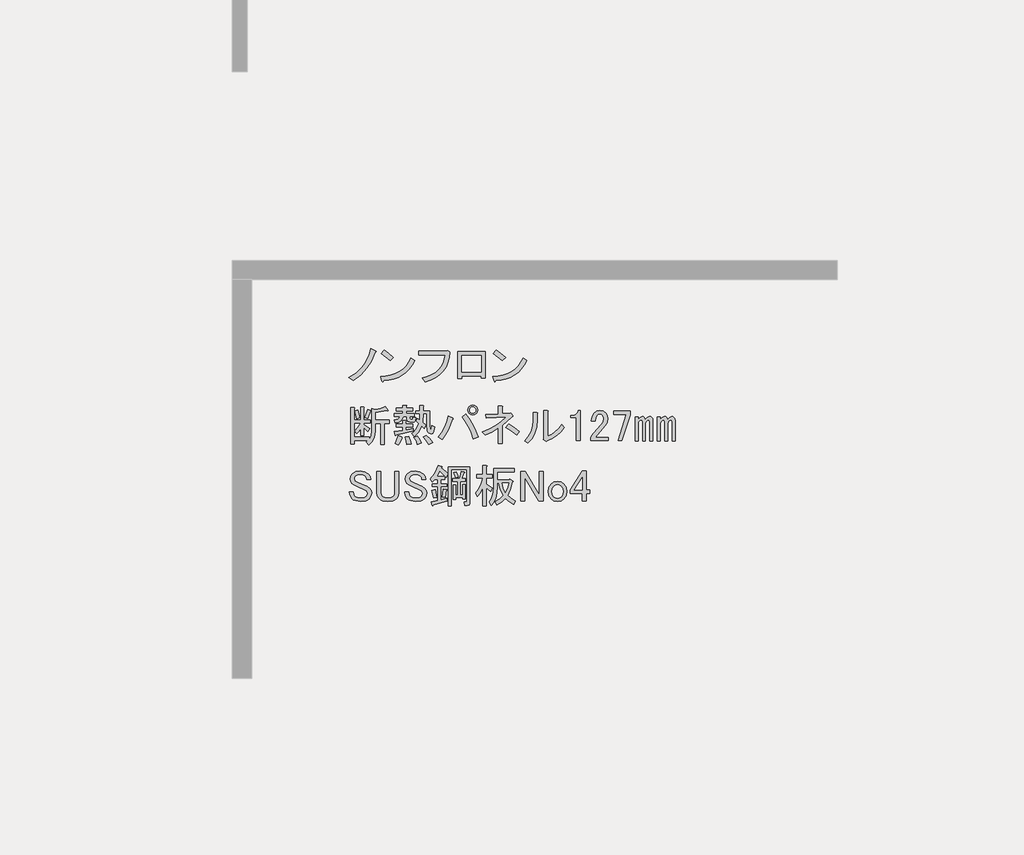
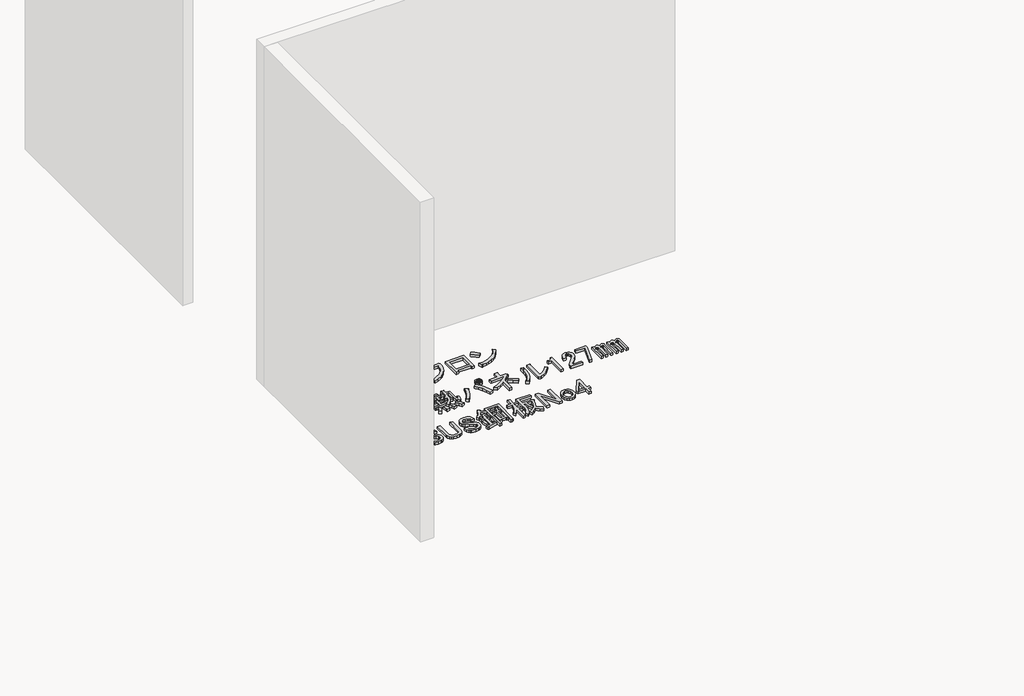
# One storey, part 45 of 117: 1 proxy.
"""IFC4 building model written with IfcOpenShell, lengths in millimetres."""

import ifcopenshell
import ifcopenshell.guid

model = None  # the IFC model being written
_history = None  # IfcOwnerHistory: only IFC2X3 demands one
_inside = {}  # id of a spatial element -> (the spatial element, [elements in it])
_under = {}  # id of a project, library or spatial element -> (it, [spatial elements below it])
_declared = {}  # id of a project -> (the project, [libraries it declares])
_typed = {}  # id of a type object -> (the type object, [elements of that type])
_made_of = {}  # id of a material, layer set ... -> (it, [elements and type objects made of it])


def new_model(schema):
    """Start an empty IFC model of exactly this schema.

    Asked for "IFC4X3", IfcOpenShell would pick the latest addendum, in which some entities
    have other attributes; the version numbers below select the first issue.
    IFC2X3 requires an IfcOwnerHistory on every rooted entity: one is made here for all.
    """
    global model, _history
    if schema == "IFC4X3":
        model = ifcopenshell.file(schema_version=(4, 3, 0, 0))
    else:
        model = ifcopenshell.file(schema=schema)
    _inside.clear()
    _under.clear()
    _declared.clear()
    _typed.clear()
    _made_of.clear()
    _history = None
    if model.schema == "IFC2X3":
        org = make("IfcOrganization", Name="unknown")
        user = make(
            "IfcPersonAndOrganization",
            ThePerson=make("IfcPerson", FamilyName="unknown"),
            TheOrganization=org,
        )
        app = make(
            "IfcApplication",
            ApplicationDeveloper=org,
            Version="unknown",
            ApplicationFullName="unknown",
            ApplicationIdentifier="unknown",
        )
        _history = make(
            "IfcOwnerHistory",
            OwningUser=user,
            OwningApplication=app,
            ChangeAction="ADDED",
            CreationDate=0,
        )
    return model


def make(cls, **values):
    """One entity of the class cls with the attributes given. An attribute that is None is left unset."""
    return model.create_entity(
        cls, **{name: value for name, value in values.items() if value is not None}
    )


def rooted(cls, **values):
    """An entity with a GlobalId (a new one), such as an element, a storey or a relation."""
    return make(cls, GlobalId=ifcopenshell.guid.new(), OwnerHistory=_history, **values)


def si_unit(unit_type, name, prefix=None):
    """IfcSIUnit, for example si_unit("LENGTHUNIT", "METRE", prefix="MILLI")."""
    return make("IfcSIUnit", UnitType=unit_type, Prefix=prefix, Name=name)


def assignment(units):
    """IfcUnitAssignment: the units of a project."""
    return None if units is None else make("IfcUnitAssignment", Units=units)


def point(xyz):
    """IfcCartesianPoint."""
    return None if xyz is None else make("IfcCartesianPoint", Coordinates=xyz)


def direction(xyz):
    """IfcDirection."""
    return None if xyz is None else make("IfcDirection", DirectionRatios=xyz)


def frame(location, z_axis=None, x_axis=None):
    """IfcAxis2Placement3D, a coordinate frame: its origin and axes. An axis left out is left unset."""
    return make(
        "IfcAxis2Placement3D",
        Location=point(location),
        Axis=direction(z_axis),
        RefDirection=direction(x_axis),
    )


def origin():
    """The frame at (0, 0, 0) with its axes left unset."""
    return frame((0.0, 0.0, 0.0))


def place(relative_to, where):
    """IfcLocalPlacement: puts the frame where relative to a parent placement (None: the world)."""
    return make(
        "IfcLocalPlacement", PlacementRelTo=relative_to, RelativePlacement=where
    )


def context(
    kind, dimensions, precision=None, world=None, true_north=None, identifier=None
):
    """IfcGeometricRepresentationContext, for example the 3D "Model" context."""
    return make(
        "IfcGeometricRepresentationContext",
        ContextIdentifier=identifier,
        ContextType=kind,
        CoordinateSpaceDimension=dimensions,
        Precision=precision,
        WorldCoordinateSystem=world,
        TrueNorth=true_north,
    )


def project(units=None, contexts=None):
    """IfcProject with its units and contexts."""
    return rooted(
        "IfcProject",
        Name="project",
        RepresentationContexts=contexts,
        UnitsInContext=assignment(units),
    )


def spatial(cls, under=None, at=None, **own):
    """A site, building, storey or space (cls), placed at a placement, below another one or the project."""
    s = rooted(cls, ObjectPlacement=at, **own)
    if under is not None:
        _under.setdefault(under.id(), (under, []))[1].append(s)
    return s


def polyline(points):
    """IfcPolyline through the points."""
    return make("IfcPolyline", Points=[point(p) for p in points])


def outline(outer, holes=None, kind="AREA"):
    """IfcArbitraryClosedProfileDef: a profile drawn as a closed curve; with holes, ...WithVoids."""
    if holes is None:
        return make("IfcArbitraryClosedProfileDef", ProfileType=kind, OuterCurve=outer)
    return make(
        "IfcArbitraryProfileDefWithVoids",
        ProfileType=kind,
        OuterCurve=outer,
        InnerCurves=holes,
    )


def extrude(swept, where, along, depth):
    """IfcExtrudedAreaSolid: the profile swept, set in the frame where, extruded along a direction by depth."""
    return make(
        "IfcExtrudedAreaSolid",
        SweptArea=swept,
        Position=where,
        ExtrudedDirection=direction(along),
        Depth=depth,
    )


def shape(context_of_items, identifier, shape_type, items):
    """IfcShapeRepresentation: the items that make up one representation, for example the "Body"."""
    return make(
        "IfcShapeRepresentation",
        ContextOfItems=context_of_items,
        RepresentationIdentifier=identifier,
        RepresentationType=shape_type,
        Items=items,
    )


def made_of(thing, what):
    """Note that an element or type object is made of a material, layer set ...; save() writes the relation."""
    if what is not None:
        _made_of.setdefault(what.id(), (what, []))[1].append(thing)
    return thing


def element(
    cls,
    number,
    at=None,
    inside=None,
    cuts=None,
    type_object=None,
    material=None,
    context=None,
    identifier="Body",
    shape_type=None,
    held_by="IfcProductDefinitionShape",
    body=None,
    shapes=None,
    **own,
):
    """One element of the class cls, such as IfcWall. Its Tag is "e" and its number.

    at: its placement. inside: the storey or other place that contains it. cuts: it is an
    opening in that element (IfcRelVoidsElement). A single representation is given by context,
    identifier, shape_type and body (its items); several are given by shapes. held_by: the class
    of the entity that holds the representations. save() writes the other relations.
    """
    e = rooted(cls, Tag="e%d" % number, ObjectPlacement=at, **own)
    if body is not None:
        shapes = [shape(context, identifier, shape_type, body)]
    if shapes is not None:
        e.Representation = make(held_by, Representations=shapes)
    if inside is not None:
        _inside.setdefault(inside.id(), (inside, []))[1].append(e)
    if cuts is not None:
        rooted(
            "IfcRelVoidsElement", RelatingBuildingElement=cuts, RelatedOpeningElement=e
        )
    if type_object is not None:
        _typed.setdefault(type_object.id(), (type_object, []))[1].append(e)
    return made_of(e, material)


def aggregate(whole, parts):
    """IfcRelAggregates: a whole, such as a stair, and the parts it consists of."""
    return rooted("IfcRelAggregates", RelatingObject=whole, RelatedObjects=parts)


def save(model, path):
    """Write the relations noted so far, then the file.

    IfcRelAggregates (storeys below a building ...), IfcRelContainedInSpatialStructure (elements
    in a storey), IfcRelDefinesByType, IfcRelAssociatesMaterial and IfcRelDeclares: one each for
    every whole, place, type object, material and project.
    """
    for whole, parts in _under.values():
        aggregate(whole, parts)
    for where, things in _inside.values():
        rooted(
            "IfcRelContainedInSpatialStructure",
            RelatedElements=things,
            RelatingStructure=where,
        )
    for kind, things in _typed.values():
        rooted("IfcRelDefinesByType", RelatedObjects=things, RelatingType=kind)
    for what, things in _made_of.values():
        rooted("IfcRelAssociatesMaterial", RelatedObjects=things, RelatingMaterial=what)
    for by, libraries in _declared.values():
        rooted("IfcRelDeclares", RelatingContext=by, RelatedDefinitions=libraries)
    model.write(path)


model = new_model("IFC4")

# Units and contexts
model_context = context("Model", 3, world=origin())
ifc_project = project(units=[si_unit("LENGTHUNIT", "METRE", prefix="MILLI")], contexts=[model_context])

# Site, building, storey
site = spatial("IfcSite", under=ifc_project)
building = spatial("IfcBuilding", under=site)
storey = spatial("IfcBuildingStorey", under=building, Name="レベル 1", Elevation=500.0)

# Proxy
placement = place(None, origin())
element("IfcBuildingElementProxy", 1, Name="200㎜\u3000MS Pゴシック", ObjectType="200㎜\u3000MS Pゴシック", at=placement, inside=storey, context=model_context, shape_type="SweptSolid", body=[
    extrude(outline(polyline([(16943.6706985, -8607.0496882), (16918.0952502, -8666.8215225), (16889.646156, -8712.7998566), (16847.9782907, -8758.2034615), (16798.8389462, -8795.560858), (16771.2519457, -8773.7211493), (16818.9544673, -8743.2605029), (16858.6107805, -8704.7536481), (16875.9963381, -8680.8305462), (16891.3703435, -8652.7406577), (16904.7327969, -8620.4839827), (16916.0836981, -8584.0605212), (16947.1190736, -8597.8540214), (16950.2800841, -8602.4518548), (16943.6706985, -8607.0496882)])), frame((0.0, 0.0, 500.0), z_axis=(0.0, 0.0, 1.0), x_axis=(1.0, 0.0, 0.0)), (0.0, 0.0, 1.0), 25.0),
    extrude(outline(polyline([(17043.3977052, -8662.2236891), (16984.7753292, -8615.0958967), (17004.3161212, -8590.9572713), (17031.6157571, -8610.7854279), (17065.2374138, -8640.3839804), (17043.3977052, -8662.2236891)])), frame((0.0, 0.0, 500.0), z_axis=(0.0, 0.0, 1.0), x_axis=(1.0, 0.0, 0.0)), (0.0, 0.0, 1.0), 25.0),
    extrude(outline(polyline([(17205.4713328, -8662.2236891), (17188.947869, -8691.965924), (17169.8381239, -8717.9724192), (17148.1420975, -8740.2431748), (17123.8597898, -8758.7781907), (17096.9912008, -8773.577467), (17067.5363306, -8784.6410036), (17035.495179, -8791.9688006), (17000.8677461, -8795.560858), (16995.1204544, -8803.6070664), (16989.3731626, -8797.8597747), (16980.1774958, -8767.9738575), (17016.0082679, -8765.2977748), (17048.7857912, -8758.9937141), (17078.5100658, -8749.0616756), (17105.1810916, -8735.5016591), (17128.7988687, -8718.3136646), (17149.363397, -8697.4976923), (17166.8746766, -8673.053742), (17181.3327074, -8644.9818138), (17205.4713328, -8662.2236891)])), frame((0.0, 0.0, 500.0), z_axis=(0.0, 0.0, 1.0), x_axis=(1.0, 0.0, 0.0)), (0.0, 0.0, 1.0), 25.0),
    extrude(outline(polyline([(17256.2314136, -8777.1695243), (17290.014713, -8767.4889298), (17319.5234641, -8755.1142922), (17344.757667, -8740.0456116), (17365.7173217, -8722.282888), (17382.402428, -8701.8261214), (17394.8129862, -8678.6753118), (17402.9489961, -8652.8304591), (17406.8104577, -8624.2915635), (17234.3917049, -8624.2915635), (17234.3917049, -8599.0034798), (17409.1093744, -8599.0034798), (17425.2017914, -8595.5551047), (17437.8458332, -8607.0496882), (17434.325617, -8643.5449909), (17426.0638851, -8676.5919185), (17413.0606375, -8706.1904711), (17395.3158742, -8732.3406486), (17372.8295952, -8755.042451), (17345.6018005, -8774.2958784), (17313.6324901, -8790.1009308), (17276.921664, -8802.4576081), (17256.2314136, -8777.1695243)])), frame((0.0, 0.0, 500.0), z_axis=(0.0, 0.0, 1.0), x_axis=(1.0, 0.0, 0.0)), (0.0, 0.0, 1.0), 25.0),
    extrude(outline(polyline([(17670.955987, -8776.020066), (17644.5184449, -8776.020066), (17644.5184449, -8763.3760241), (17516.9285679, -8763.3760241), (17516.9285679, -8781.7673577), (17490.4910258, -8781.7673577), (17490.4910258, -8602.4518548), (17670.955987, -8602.4518548), (17670.955987, -8776.020066)]), holes=[polyline([(17516.9285679, -8627.7399386), (17516.9285679, -8738.0879404), (17644.5184449, -8738.0879404), (17644.5184449, -8627.7399386), (17516.9285679, -8627.7399386)])]), frame((0.0, 0.0, 500.0), z_axis=(0.0, 0.0, 1.0), x_axis=(1.0, 0.0, 0.0)), (0.0, 0.0, 1.0), 25.0),
    extrude(outline(polyline([(17947.0099049, -8662.2236891), (17930.4864411, -8691.965924), (17911.376696, -8717.9724192), (17889.6806696, -8740.2431748), (17865.3983619, -8758.7781907), (17838.5297729, -8773.577467), (17809.0749026, -8784.6410036), (17777.0337511, -8791.9688006), (17742.4063182, -8795.560858), (17736.6590264, -8803.6070664), (17730.9117347, -8797.8597747), (17721.7160679, -8767.9738575), (17757.5468399, -8765.2977748), (17790.3243633, -8758.9937141), (17820.0486378, -8749.0616756), (17846.7196637, -8735.5016591), (17870.3374407, -8718.3136646), (17890.9019691, -8697.4976923), (17908.4132486, -8673.053742), (17922.8712795, -8644.9818138), (17947.0099049, -8662.2236891)])), frame((0.0, 0.0, 500.0), z_axis=(0.0, 0.0, 1.0), x_axis=(1.0, 0.0, 0.0)), (0.0, 0.0, 1.0), 25.0),
    extrude(outline(polyline([(17784.9362772, -8662.2236891), (17726.3139013, -8615.0958967), (17745.8546933, -8590.9572713), (17773.1543291, -8610.7854279), (17806.7759859, -8640.3839804), (17784.9362772, -8662.2236891)])), frame((0.0, 0.0, 500.0), z_axis=(0.0, 0.0, 1.0), x_axis=(1.0, 0.0, 0.0)), (0.0, 0.0, 1.0), 25.0),
    extrude(outline(polyline([(16877.0021141, -9039.2345221), (16894.2439894, -8986.3594379), (16914.9342397, -8992.1067296), (16916.6584273, -8995.2677401), (16912.635323, -8997.8540214), (16895.3934477, -9046.1312722), (16877.0021141, -9039.2345221)])), frame((0.0, 0.0, 500.0), z_axis=(0.0, 0.0, 1.0), x_axis=(1.0, 0.0, 0.0)), (0.0, 0.0, 1.0), 25.0),
    extrude(outline(polyline([(17031.0295333, -8990.9572713), (17029.3053458, -8995.5551047), (17021.8338665, -8993.256188), (16944.8201569, -9005.9002299), (16944.8201569, -9055.326939), (17036.7768251, -9055.326939), (17036.7768251, -9077.1666477), (17005.7414495, -9077.1666477), (17005.7414495, -9217.4005666), (16982.7522825, -9217.4005666), (16982.7522825, -9077.1666477), (16944.8201569, -9077.1666477), (16944.8201569, -9126.5933568), (16942.2338756, -9154.3958807), (16934.4750317, -9179.1810764), (16921.5436253, -9200.948944), (16903.4396562, -9219.6994833), (16886.1977809, -9200.1586914), (16896.5429061, -9190.9630245), (16806.8851546, -9190.9630245), (16806.8851546, -9212.8027332), (16783.8959876, -9212.8027332), (16783.8959876, -8973.715396), (16805.7356963, -8973.715396), (16810.6208943, -8976.0143127), (16806.8851546, -8980.6121461), (16806.8851546, -9056.4763974), (16849.4151137, -9056.4763974), (16849.4151137, -8969.1175626), (16867.8064473, -8969.1175626), (16872.6916453, -8971.4164793), (16868.9559057, -8976.0143127), (16868.9559057, -9056.4763974), (16912.635323, -9056.4763974), (16912.635323, -9074.867731), (16868.9559057, -9074.867731), (16868.9559057, -9084.0633978), (16909.186948, -9110.5009399), (16895.3934477, -9132.3406486), (16868.9559057, -9105.9031065), (16868.9559057, -9158.7781907), (16849.4151137, -9158.7781907), (16849.4151137, -9110.5009399), (16836.1963426, -9130.3290965), (16821.8281132, -9146.1341488), (16809.1840713, -9127.7428152), (16831.02378, -9103.6041898), (16848.2656553, -9074.867731), (16806.8851546, -9074.867731), (16806.8851546, -9169.1233159), (16904.5891146, -9169.1233159), (16904.5891146, -9182.9168161), (16917.520521, -9158.7781907), (16921.8309898, -9125.4438985), (16921.8309898, -8980.6121461), (16943.6706985, -8986.3594379), (16979.8786366, -8978.8879586), (17010.339283, -8965.6691875), (17031.0295333, -8990.9572713)])), frame((0.0, 0.0, 500.0), z_axis=(0.0, 0.0, 1.0), x_axis=(1.0, 0.0, 0.0)), (0.0, 0.0, 1.0), 25.0),
    extrude(outline(polyline([(16822.9775716, -9047.2807305), (16810.3335297, -8996.7045631), (16829.8743217, -8989.8078129), (16837.6331656, -9013.9464383), (16842.5183636, -9040.3839804), (16822.9775716, -9047.2807305)])), frame((0.0, 0.0, 500.0), z_axis=(0.0, 0.0, 1.0), x_axis=(1.0, 0.0, 0.0)), (0.0, 0.0, 1.0), 25.0),
    extrude(outline(polyline([(17121.8367431, -9167.9738575), (17125.2851182, -9172.8590555), (17119.5378264, -9176.020066), (17109.7674304, -9201.5955143), (17098.8475761, -9220.8489417), (17075.858409, -9209.3543582), (17088.5024509, -9185.790462), (17098.8475761, -9158.7781907), (17121.8367431, -9167.9738575)])), frame((0.0, 0.0, 500.0), z_axis=(0.0, 0.0, 1.0), x_axis=(1.0, 0.0, 0.0)), (0.0, 0.0, 1.0), 25.0),
    extrude(outline(polyline([(17166.6656188, -9163.3760241), (17176.7233794, -9190.67566), (17181.6085774, -9212.8027332), (17152.8721186, -9218.550025), (17150.2858373, -9196.9976809), (17142.5269934, -9166.8243992), (17166.6656188, -9163.3760241)])), frame((0.0, 0.0, 500.0), z_axis=(0.0, 0.0, 1.0), x_axis=(1.0, 0.0, 0.0)), (0.0, 0.0, 1.0), 25.0),
    extrude(outline(polyline([(17281.611454, -9157.6287323), (17306.3248086, -9178.8937119), (17325.2908714, -9203.6070664), (17298.8533293, -9218.550025), (17279.5999019, -9188.9514724), (17260.9212037, -9169.1233159), (17281.611454, -9157.6287323)])), frame((0.0, 0.0, 500.0), z_axis=(0.0, 0.0, 1.0), x_axis=(1.0, 0.0, 0.0)), (0.0, 0.0, 1.0), 25.0),
    extrude(outline(polyline([(17222.9890781, -9216.2511083), (17214.655505, -9191.5377537), (17201.1493694, -9170.2727742), (17221.8396197, -9162.2265657), (17238.7941304, -9183.7789098), (17250.5760785, -9207.0554415), (17222.9890781, -9216.2511083)])), frame((0.0, 0.0, 500.0), z_axis=(0.0, 0.0, 1.0), x_axis=(1.0, 0.0, 0.0)), (0.0, 0.0, 1.0), 25.0),
    extrude(outline(polyline([(17083.9046175, -9153.0308989), (17081.8930654, -9157.9160969), (17078.1573257, -9156.479274), (17072.410034, -9132.3406486), (17127.5840349, -9124.2944401), (17127.5840349, -9101.3052731), (17083.9046175, -9101.3052731), (17083.9046175, -9082.9139395), (17127.5840349, -9082.9139395), (17127.5840349, -9059.9247724), (17145.9753685, -9059.9247724), (17150.8605665, -9062.2236891), (17147.1248268, -9066.8215225), (17147.1248268, -9082.9139395), (17191.9537026, -9082.9139395), (17191.9537026, -9101.3052731), (17147.1248268, -9101.3052731), (17147.1248268, -9120.8460651), (17197.7009943, -9111.6503983), (17197.7009943, -9127.7428152), (17083.9046175, -9153.0308989)])), frame((0.0, 0.0, 500.0), z_axis=(0.0, 0.0, 1.0), x_axis=(1.0, 0.0, 0.0)), (0.0, 0.0, 1.0), 25.0),
    extrude(outline(polyline([(17154.021577, -9031.1883136), (17128.7334932, -9031.1883136), (17124.1356598, -9048.6457123), (17113.7905346, -9061.9363245), (17097.6981177, -9071.0601502), (17075.858409, -9076.0171893), (17071.2605756, -9056.4763974), (17096.5486594, -9047.8554597), (17104.0201386, -9040.5276627), (17108.0432429, -9031.1883136), (17072.410034, -9031.1883136), (17072.410034, -9012.79698), (17126.4345765, -9012.79698), (17126.4345765, -8995.5551047), (17082.7551591, -8995.5551047), (17082.7551591, -8977.1637711), (17126.4345765, -8977.1637711), (17126.4345765, -8958.7724374), (17148.2742852, -8958.7724374), (17153.1594832, -8961.0713541), (17149.4237436, -8965.6691875), (17149.4237436, -8977.1637711), (17191.9537026, -8977.1637711), (17191.9537026, -8995.5551047), (17149.4237436, -8995.5551047), (17149.4237436, -9012.79698), (17202.2988277, -9012.79698), (17202.2988277, -9031.1883136), (17173.5623689, -9031.1883136), (17173.5623689, -9043.8323555), (17174.9991919, -9049.0049181), (17179.3096607, -9050.7291056), (17189.6547859, -9050.7291056), (17193.3905255, -9047.5680951), (17193.1031609, -9038.0850637), (17212.6439529, -9040.3839804), (17209.770307, -9061.9363245), (17204.4540622, -9067.3244106), (17196.551536, -9069.1204392), (17172.4129106, -9069.1204392), (17158.6194104, -9064.2352412), (17154.021577, -9049.5796472), (17154.021577, -9031.1883136)])), frame((0.0, 0.0, 500.0), z_axis=(0.0, 0.0, 1.0), x_axis=(1.0, 0.0, 0.0)), (0.0, 0.0, 1.0), 25.0),
    extrude(outline(polyline([(17285.0598291, -9013.9464383), (17263.2201204, -9013.9464383), (17258.622287, -9071.4193559), (17278.163079, -9089.8106896), (17267.8179538, -9111.6503983), (17251.7255369, -9095.5579813), (17232.4721095, -9133.2027424), (17202.2988277, -9165.6749408), (17185.0569525, -9144.9846905), (17200.1435933, -9133.0590601), (17213.2186821, -9117.9724192), (17224.2822187, -9099.7247679), (17233.3342033, -9078.316106), (17216.092328, -9063.3731475), (17224.1385364, -9046.1312722), (17237.9320367, -9056.4763974), (17240.2309534, -9013.9464383), (17212.6439529, -9013.9464383), (17212.6439529, -8995.5551047), (17240.2309534, -8995.5551047), (17240.2309534, -8961.0713541), (17262.0706621, -8961.0713541), (17266.95586, -8963.3702708), (17263.2201204, -8967.9681043), (17263.2201204, -8995.5551047), (17304.6006211, -8995.5551047), (17304.6006211, -9092.1096063), (17308.0489961, -9116.2482317), (17311.2818477, -9118.2597838), (17314.0836525, -9115.0987733), (17318.3941213, -9093.2590646), (17337.9349133, -9100.1558147), (17333.408921, -9126.9525626), (17325.578236, -9142.9731384), (17314.4428582, -9148.2175421), (17300.0027877, -9142.6857738), (17293.4652433, -9135.3579768), (17288.7955687, -9123.719711), (17285.0598291, -9087.5117729), (17285.0598291, -9013.9464383)])), frame((0.0, 0.0, 500.0), z_axis=(0.0, 0.0, 1.0), x_axis=(1.0, 0.0, 0.0)), (0.0, 0.0, 1.0), 25.0),
    extrude(outline(polyline([(17543.6879583, -9016.245355), (17570.3410238, -9052.9561812), (17592.8273029, -9090.6727833), (17611.1467953, -9129.3951616), (17625.2995013, -9169.1233159), (17594.2641258, -9179.468441), (17578.8182792, -9136.3637528), (17561.2171982, -9097.856898), (17541.4608827, -9063.9478766), (17519.5493329, -9034.6366887), (17543.6879583, -9016.245355)])), frame((0.0, 0.0, 500.0), z_axis=(0.0, 0.0, 1.0), x_axis=(1.0, 0.0, 0.0)), (0.0, 0.0, 1.0), 25.0),
    extrude(outline(polyline([(17456.3291235, -9042.6828971), (17460.3522278, -9048.1428243), (17454.0302068, -9053.0280223), (17442.1045764, -9088.4457078), (17427.0179356, -9122.282888), (17408.7702842, -9154.539563), (17387.3616224, -9185.2157328), (17360.9240803, -9167.9738575), (17384.1287708, -9136.5074351), (17403.1666748, -9103.0294606), (17418.0377922, -9067.539934), (17428.7421231, -9030.0388553), (17456.3291235, -9042.6828971)])), frame((0.0, 0.0, 500.0), z_axis=(0.0, 0.0, 1.0), x_axis=(1.0, 0.0, 0.0)), (0.0, 0.0, 1.0), 25.0),
    extrude(outline(polyline([(17589.6662924, -9021.9926468), (17577.0222505, -9019.6937301), (17566.6771253, -9012.79698), (17559.7803752, -9002.4518548), (17557.4814585, -8989.8078129), (17559.7803752, -8977.1637711), (17566.6771253, -8966.8186459), (17577.0222505, -8959.9218958), (17589.6662924, -8957.6229791), (17602.3103343, -8959.9218958), (17612.6554594, -8966.8186459), (17619.5522095, -8977.1637711), (17621.8511262, -8989.8078129), (17619.5522095, -9002.4518548), (17612.6554594, -9012.79698), (17602.3103343, -9019.6937301), (17589.6662924, -9021.9926468)]), holes=[polyline([(17589.6662924, -9010.4980633), (17597.9998654, -9009.0612403), (17604.609251, -9004.7507715), (17608.9197198, -8998.141386), (17610.3565427, -8989.8078129), (17608.9197198, -8981.4742399), (17604.609251, -8974.8648544), (17597.9998654, -8970.5543855), (17589.6662924, -8969.1175626), (17581.3327193, -8970.5543855), (17574.7233338, -8974.8648544), (17570.412865, -8981.4742399), (17568.976042, -8989.8078129), (17570.412865, -8998.141386), (17574.7233338, -9004.7507715), (17581.3327193, -9009.0612403), (17589.6662924, -9010.4980633)])]), frame((0.0, 0.0, 500.0), z_axis=(0.0, 0.0, 1.0), x_axis=(1.0, 0.0, 0.0)), (0.0, 0.0, 1.0), 25.0),
    extrude(outline(polyline([(17879.3297971, -9155.3298156), (17842.2597652, -9126.0186277), (17809.2128376, -9104.7536481), (17826.4547129, -9082.9139395), (17865.2489323, -9106.1904711), (17898.8705891, -9132.3406486), (17879.3297971, -9155.3298156)])), frame((0.0, 0.0, 500.0), z_axis=(0.0, 0.0, 1.0), x_axis=(1.0, 0.0, 0.0)), (0.0, 0.0, 1.0), 25.0),
    extrude(outline(polyline([(17833.351463, -9011.6475216), (17840.2482131, -9009.3486049), (17852.892255, -9026.5904802), (17854.0417134, -9032.6251366), (17848.2944216, -9034.6366887), (17785.0742122, -9090.9601479), (17785.0742122, -9211.6532749), (17758.6366701, -9211.6532749), (17758.6366701, -9109.3514816), (17718.4056278, -9133.4901069), (17673.5767521, -9155.3298156), (17654.0359601, -9134.6395653), (17699.5832473, -9115.1706145), (17740.8200657, -9092.3969709), (17777.7464152, -9066.3186345), (17810.362296, -9036.9356054), (17680.4735022, -9042.6828971), (17677.0251271, -9017.3948134), (17758.6366701, -9015.0958967), (17758.6366701, -8963.3702708), (17781.6258372, -8963.3702708), (17787.6604935, -8966.8186459), (17785.0742122, -8972.5659377), (17785.0742122, -9013.9464383), (17833.351463, -9011.6475216)])), frame((0.0, 0.0, 500.0), z_axis=(0.0, 0.0, 1.0), x_axis=(1.0, 0.0, 0.0)), (0.0, 0.0, 1.0), 25.0),
    extrude(outline(polyline([(17932.296838, -9193.2619413), (17957.4412394, -9164.0225944), (17975.4015262, -9131.4785548), (17986.1776982, -9095.6298225), (17989.7697556, -9056.4763974), (17989.7697556, -9004.7507715), (18013.908381, -9004.7507715), (18019.6556727, -9008.1991466), (18016.2072977, -9013.9464383), (18016.2072977, -9055.326939), (18012.3997169, -9101.0897496), (18000.9769745, -9141.82368), (17981.9390705, -9177.5287301), (17955.286005, -9208.2048998), (17932.296838, -9193.2619413)])), frame((0.0, 0.0, 500.0), z_axis=(0.0, 0.0, 1.0), x_axis=(1.0, 0.0, 0.0)), (0.0, 0.0, 1.0), 25.0),
    extrude(outline(polyline([(18086.3242571, -9162.2265657), (18111.1094529, -9150.0135708), (18134.8888725, -9132.9153778), (18157.6625161, -9110.9319868), (18179.4303837, -9084.0633978), (18195.5228006, -9105.9031065), (18172.246269, -9133.7056304), (18146.0960914, -9157.3413678), (18117.0722681, -9176.8103186), (18085.1747988, -9192.1124829), (18075.979132, -9196.7103163), (18057.5877983, -9182.9168161), (18059.886715, -9177.1695243), (18059.886715, -8992.1067296), (18084.0253404, -8992.1067296), (18089.7726322, -8995.5551047), (18086.3242571, -9001.3023965), (18086.3242571, -9162.2265657)])), frame((0.0, 0.0, 500.0), z_axis=(0.0, 0.0, 1.0), x_axis=(1.0, 0.0, 0.0)), (0.0, 0.0, 1.0), 25.0),
    extrude(outline(polyline([(18274.8354269, -9015.0958967), (18282.8816353, -9004.1760423), (18286.3300104, -8992.1067296), (18300.1235106, -8992.1067296), (18300.1235106, -9190.9630245), (18273.6859685, -9190.9630245), (18273.6859685, -9038.0850637), (18239.202218, -9038.0850637), (18239.202218, -9024.2915635), (18249.5473431, -9024.2915635), (18263.9155725, -9021.9926468), (18274.8354269, -9015.0958967)])), frame((0.0, 0.0, 500.0), z_axis=(0.0, 0.0, 1.0), x_axis=(1.0, 0.0, 0.0)), (0.0, 0.0, 1.0), 25.0),
    extrude(outline(polyline([(18374.8383035, -9062.2236891), (18379.4361369, -9030.900949), (18393.2296371, -9008.1991466), (18409.6094186, -8996.9919276), (18428.862846, -8993.256188), (18451.5646485, -8996.9919276), (18469.0938884, -9008.1991466), (18480.3011073, -9024.8662927), (18484.0368469, -9044.9818138), (18479.7263781, -9070.8446268), (18466.7949717, -9093.2590646), (18433.4606795, -9131.1911902), (18415.0693458, -9151.8814406), (18401.2758456, -9170.2727742), (18487.485222, -9170.2727742), (18487.485222, -9192.1124829), (18370.2404701, -9192.1124829), (18370.2404701, -9172.5716909), (18376.2751264, -9158.7781907), (18389.7812621, -9140.3868571), (18436.9090545, -9088.6612312), (18451.5646485, -9067.3962517), (18456.4498465, -9044.9818138), (18454.1509298, -9032.337772), (18447.2541797, -9021.9926468), (18439.4953358, -9016.8200842), (18430.0123044, -9015.0958967), (18421.3913668, -9016.8200842), (18413.9198875, -9021.9926468), (18404.4368561, -9038.3724283), (18401.2758456, -9062.2236891), (18374.8383035, -9062.2236891)])), frame((0.0, 0.0, 500.0), z_axis=(0.0, 0.0, 1.0), x_axis=(1.0, 0.0, 0.0)), (0.0, 0.0, 1.0), 25.0),
    extrude(outline(polyline([(18521.9689726, -8995.5551047), (18631.167516, -8995.5551047), (18631.167516, -9020.8431884), (18575.9935151, -9192.1124829), (18550.7054314, -9192.1124829), (18605.8794323, -9017.3948134), (18521.9689726, -9017.3948134), (18521.9689726, -8995.5551047)])), frame((0.0, 0.0, 500.0), z_axis=(0.0, 0.0, 1.0), x_axis=(1.0, 0.0, 0.0)), (0.0, 0.0, 1.0), 25.0),
    extrude(outline(polyline([(18684.0426002, -9193.2619413), (18664.5018082, -9193.2619413), (18664.5018082, -9035.786147), (18684.0426002, -9035.786147), (18684.0426002, -9053.0280223), (18696.1119129, -9037.5103346), (18709.3306839, -9032.337772), (18718.5263508, -9033.7745949), (18725.4231009, -9038.0850637), (18732.319851, -9051.878564), (18745.2512574, -9037.22297), (18758.7573931, -9032.337772), (18767.0909661, -9033.7745949), (18773.7003517, -9038.0850637), (18778.8729142, -9046.7060014), (18780.5971018, -9058.7753141), (18780.5971018, -9193.2619413), (18761.0563098, -9193.2619413), (18761.0563098, -9069.1204392), (18758.4700285, -9059.6374078), (18750.7111846, -9056.4763974), (18740.3660594, -9061.0742308), (18734.3314031, -9069.6951684), (18732.319851, -9079.4655644), (18732.319851, -9193.2619413), (18712.779059, -9193.2619413), (18712.779059, -9069.1204392), (18710.1927777, -9059.6374078), (18702.4339338, -9056.4763974), (18692.0888087, -9061.0742308), (18686.0541523, -9069.6951684), (18684.0426002, -9079.4655644), (18684.0426002, -9193.2619413)])), frame((0.0, 0.0, 500.0), z_axis=(0.0, 0.0, 1.0), x_axis=(1.0, 0.0, 0.0)), (0.0, 0.0, 1.0), 25.0),
    extrude(outline(polyline([(18905.8880621, -9032.337772), (18914.2216352, -9033.7745949), (18920.8310207, -9038.0850637), (18926.0035833, -9046.7060014), (18927.7277708, -9058.7753141), (18927.7277708, -9193.2619413), (18908.1869788, -9193.2619413), (18908.1869788, -9069.1204392), (18905.6006976, -9059.6374078), (18897.8418537, -9056.4763974), (18887.4967285, -9061.0742308), (18881.4620722, -9069.6951684), (18879.45052, -9079.4655644), (18879.45052, -9193.2619413), (18859.9097281, -9193.2619413), (18859.9097281, -9069.1204392), (18857.3234468, -9059.6374078), (18849.5646029, -9056.4763974), (18839.2194777, -9061.0742308), (18833.1848214, -9069.6951684), (18831.1732693, -9079.4655644), (18831.1732693, -9193.2619413), (18811.6324773, -9193.2619413), (18811.6324773, -9035.786147), (18831.1732693, -9035.786147), (18831.1732693, -9053.0280223), (18843.242582, -9037.5103346), (18856.461353, -9032.337772), (18865.6570198, -9033.7745949), (18872.5537699, -9038.0850637), (18879.45052, -9051.878564), (18892.3819265, -9037.22297), (18905.8880621, -9032.337772)])), frame((0.0, 0.0, 500.0), z_axis=(0.0, 0.0, 1.0), x_axis=(1.0, 0.0, 0.0)), (0.0, 0.0, 1.0), 25.0),
    extrude(outline(polyline([(16779.2981542, -9447.2807305), (16783.3212584, -9426.8778448), (16795.3905711, -9409.3486049), (16815.7934569, -9397.2792922), (16844.8172803, -9393.256188), (16876.1400204, -9397.8540214), (16898.8418228, -9411.6475216), (16910.9111355, -9429.1767615), (16914.9342397, -9449.5796472), (16888.4966976, -9449.5796472), (16886.1977809, -9436.9356054), (16879.3010308, -9426.5904802), (16866.0822598, -9418.8316363), (16847.116197, -9416.245355), (16826.7133112, -9418.5442717), (16813.7819048, -9425.4410219), (16807.7472484, -9434.0619595), (16805.7356963, -9443.8323555), (16810.3335297, -9458.7753141), (16831.02378, -9470.2698976), (16890.7956143, -9496.7074397), (16908.0374896, -9508.2020232), (16917.520521, -9521.9955234), (16920.6815315, -9538.0879404), (16916.6584273, -9559.3529199), (16904.5891146, -9577.1695243), (16894.6031951, -9584.7128448), (16881.8873121, -9590.1009308), (16848.2656553, -9594.4113996), (16814.6439985, -9589.238837), (16801.0660217, -9582.7731338), (16789.6432794, -9573.7211493), (16778.4360604, -9555.3298156), (16774.7003208, -9530.0417319), (16801.1378629, -9530.0417319), (16803.4367796, -9547.8583363), (16810.3335297, -9559.927649), (16826.4259466, -9569.4106804), (16849.4151137, -9572.5716909), (16870.3927286, -9569.698045), (16885.0483226, -9561.0771074), (16891.9450727, -9551.8814406), (16894.2439894, -9542.6857738), (16892.5198019, -9533.2027424), (16887.3472393, -9525.4438985), (16868.9559057, -9513.949315), (16839.0699885, -9500.1558147), (16805.7356963, -9485.2128562), (16789.6432794, -9474.867731), (16781.8844355, -9462.7984183), (16779.2981542, -9447.2807305)])), frame((0.0, 0.0, 500.0), z_axis=(0.0, 0.0, 1.0), x_axis=(1.0, 0.0, 0.0)), (0.0, 0.0, 1.0), 25.0),
    extrude(outline(polyline([(16954.7054987, -9395.5551047), (16981.1430408, -9395.5551047), (16981.1430408, -9533.4901069), (16983.7293221, -9548.1457009), (16991.488166, -9559.927649), (17007.0058537, -9569.4106804), (17028.2708332, -9572.5716909), (17049.5358128, -9569.4106804), (17065.0535005, -9559.927649), (17072.8123444, -9548.1457009), (17075.3986257, -9533.4901069), (17075.3986257, -9395.5551047), (17101.8361678, -9395.5551047), (17101.8361678, -9534.6395653), (17097.8130635, -9557.6287323), (17085.7437508, -9576.020066), (17075.2549434, -9584.0662744), (17062.1798546, -9589.8135662), (17028.2708332, -9594.4113996), (16994.3618119, -9589.8135662), (16981.2867231, -9584.0662744), (16970.7979156, -9576.020066), (16958.7286029, -9557.6287323), (16954.7054987, -9534.6395653), (16954.7054987, -9395.5551047)])), frame((0.0, 0.0, 500.0), z_axis=(0.0, 0.0, 1.0), x_axis=(1.0, 0.0, 0.0)), (0.0, 0.0, 1.0), 25.0),
    extrude(outline(polyline([(17144.1822135, -9447.2807305), (17148.2053177, -9426.8778448), (17160.2746304, -9409.3486049), (17180.6775161, -9397.2792922), (17209.7013395, -9393.256188), (17241.0240796, -9397.8540214), (17263.7258821, -9411.6475216), (17275.7951948, -9429.1767615), (17279.818299, -9449.5796472), (17253.3807569, -9449.5796472), (17251.0818402, -9436.9356054), (17244.1850901, -9426.5904802), (17230.966319, -9418.8316363), (17212.0002562, -9416.245355), (17191.5973705, -9418.5442717), (17178.665964, -9425.4410219), (17172.6313077, -9434.0619595), (17170.6197556, -9443.8323555), (17175.217589, -9458.7753141), (17195.9078393, -9470.2698976), (17255.6796736, -9496.7074397), (17272.9215489, -9508.2020232), (17282.4045803, -9521.9955234), (17285.5655908, -9538.0879404), (17281.5424865, -9559.3529199), (17269.4731738, -9577.1695243), (17259.4872544, -9584.7128448), (17246.7713714, -9590.1009308), (17213.1497146, -9594.4113996), (17179.5280578, -9589.238837), (17165.950081, -9582.7731338), (17154.5273386, -9573.7211493), (17143.3201197, -9555.3298156), (17139.5843801, -9530.0417319), (17166.0219222, -9530.0417319), (17168.3208389, -9547.8583363), (17175.217589, -9559.927649), (17191.3100059, -9569.4106804), (17214.2991729, -9572.5716909), (17235.2767879, -9569.698045), (17249.9323819, -9561.0771074), (17256.829132, -9551.8814406), (17259.1280487, -9542.6857738), (17257.4038611, -9533.2027424), (17252.2312986, -9525.4438985), (17233.8399649, -9513.949315), (17203.9540478, -9500.1558147), (17170.6197556, -9485.2128562), (17154.5273386, -9474.867731), (17146.7684948, -9462.7984183), (17144.1822135, -9447.2807305)])), frame((0.0, 0.0, 500.0), z_axis=(0.0, 0.0, 1.0), x_axis=(1.0, 0.0, 0.0)), (0.0, 0.0, 1.0), 25.0),
    extrude(outline(polyline([(17428.7881014, -9365.6691875), (17569.0220204, -9365.6691875), (17569.0220204, -9605.9059831), (17565.2862807, -9617.1132021), (17554.0790618, -9620.8489417), (17537.9866449, -9620.8489417), (17533.3888115, -9599.009233), (17544.883395, -9599.009233), (17548.33177, -9597.8597747), (17549.4812284, -9594.4113996), (17549.4812284, -9384.0605212), (17448.3288934, -9384.0605212), (17448.3288934, -9623.1478584), (17428.7881014, -9623.1478584), (17428.7881014, -9365.6691875)])), frame((0.0, 0.0, 500.0), z_axis=(0.0, 0.0, 1.0), x_axis=(1.0, 0.0, 0.0)), (0.0, 0.0, 1.0), 25.0),
    extrude(outline(polyline([(17481.6631856, -9397.8540214), (17488.8473003, -9413.0843446), (17494.3072275, -9433.4872303), (17477.0653522, -9439.2345221), (17465.5707687, -9402.4518548), (17481.6631856, -9397.8540214)])), frame((0.0, 0.0, 500.0), z_axis=(0.0, 0.0, 1.0), x_axis=(1.0, 0.0, 0.0)), (0.0, 0.0, 1.0), 25.0),
    extrude(outline(polyline([(17534.5382698, -9399.0034798), (17537.1245511, -9402.4518548), (17531.0898948, -9405.9002299), (17518.4458529, -9443.8323555), (17539.1361032, -9443.8323555), (17539.1361032, -9462.2236891), (17508.1007277, -9462.2236891), (17508.1007277, -9550.7319822), (17523.0436863, -9550.7319822), (17523.0436863, -9482.9139395), (17539.1361032, -9482.9139395), (17539.1361032, -9577.1695243), (17523.0436863, -9577.1695243), (17523.0436863, -9569.1233159), (17477.0653522, -9569.1233159), (17477.0653522, -9581.7673577), (17460.9729353, -9581.7673577), (17460.9729353, -9485.2128562), (17477.0653522, -9485.2128562), (17477.0653522, -9550.7319822), (17492.0083108, -9550.7319822), (17492.0083108, -9462.2236891), (17456.3751019, -9462.2236891), (17456.3751019, -9443.8323555), (17502.353436, -9443.8323555), (17512.6985611, -9394.4056463), (17534.5382698, -9399.0034798)])), frame((0.0, 0.0, 500.0), z_axis=(0.0, 0.0, 1.0), x_axis=(1.0, 0.0, 0.0)), (0.0, 0.0, 1.0), 25.0),
    extrude(outline(polyline([(17417.2935179, -9513.949315), (17419.8797992, -9517.1103254), (17416.1440596, -9519.6966067), (17408.0978511, -9566.8243992), (17389.7065175, -9564.5254825), (17395.4538092, -9510.5009399), (17417.2935179, -9513.949315)])), frame((0.0, 0.0, 500.0), z_axis=(0.0, 0.0, 1.0), x_axis=(1.0, 0.0, 0.0)), (0.0, 0.0, 1.0), 25.0),
    extrude(outline(polyline([(17340.2798083, -9515.0987733), (17351.7743918, -9566.8243992), (17331.0841415, -9572.5716909), (17319.589558, -9520.8460651), (17340.2798083, -9515.0987733)])), frame((0.0, 0.0, 500.0), z_axis=(0.0, 0.0, 1.0), x_axis=(1.0, 0.0, 0.0)), (0.0, 0.0, 1.0), 25.0),
    extrude(outline(polyline([(17413.8451429, -9434.6366887), (17372.4646422, -9390.9572713), (17350.6249335, -9430.0388553), (17405.7989344, -9430.0388553), (17405.7989344, -9448.4301889), (17379.3613923, -9448.4301889), (17379.3613923, -9477.1666477), (17417.2935179, -9477.1666477), (17417.2935179, -9495.5579813), (17379.3613923, -9495.5579813), (17379.3613923, -9582.9168161), (17418.4429763, -9572.5716909), (17420.741893, -9592.1124829), (17328.7852248, -9617.4005666), (17326.4863081, -9623.1478584), (17321.8884747, -9619.6994833), (17314.9917246, -9596.7103163), (17359.8206003, -9587.5146495), (17359.8206003, -9495.5579813), (17321.8884747, -9495.5579813), (17321.8884747, -9477.1666477), (17359.8206003, -9477.1666477), (17359.8206003, -9448.4301889), (17337.9808916, -9448.4301889), (17323.037933, -9466.8215225), (17310.3938912, -9446.1312722), (17338.5556208, -9408.4865112), (17363.2689754, -9357.6229791), (17385.1086841, -9363.3702708), (17388.5570591, -9367.1060105), (17382.8097674, -9369.1175626), (17381.660309, -9372.5659377), (17426.4891847, -9410.4980633), (17413.8451429, -9434.6366887)])), frame((0.0, 0.0, 500.0), z_axis=(0.0, 0.0, 1.0), x_axis=(1.0, 0.0, 0.0)), (0.0, 0.0, 1.0), 25.0),
    extrude(outline(polyline([(17740.2913148, -9594.4113996), (17769.0277736, -9577.1695243), (17790.8674823, -9555.3298156), (17773.0508779, -9513.3745858), (17763.2804819, -9472.5688143), (17750.63644, -9472.5688143), (17750.63644, -9496.7074397), (17748.193841, -9538.4471461), (17740.866044, -9572.8590555), (17728.653049, -9599.9431679), (17711.554856, -9619.6994833), (17697.7613558, -9596.7103163), (17710.8364446, -9579.3247587), (17720.1757937, -9557.0540032), (17725.7794031, -9529.8980496), (17727.647273, -9497.856898), (17727.647273, -9377.1637711), (17864.4328169, -9377.1637711), (17864.4328169, -9399.0034798), (17750.63644, -9399.0034798), (17750.63644, -9450.7291056), (17829.9490663, -9450.7291056), (17835.6963581, -9444.9818138), (17855.23715, -9458.7753141), (17856.673973, -9462.5110537), (17851.788775, -9466.8215225), (17839.4320977, -9513.3745858), (17820.7533995, -9554.1803573), (17839.7194623, -9572.5716909), (17871.329567, -9590.9630245), (17862.1339002, -9615.1016499), (17834.2595351, -9599.009233), (17805.8104409, -9573.7211493), (17781.3844509, -9598.1471392), (17749.4869817, -9618.550025), (17740.2913148, -9594.4113996)]), holes=[polyline([(17785.1201906, -9472.5688143), (17793.166399, -9505.6157419), (17805.8104409, -9533.4901069), (17818.4544828, -9507.3399294), (17826.5006912, -9472.5688143), (17785.1201906, -9472.5688143)])]), frame((0.0, 0.0, 500.0), z_axis=(0.0, 0.0, 1.0), x_axis=(1.0, 0.0, 0.0)), (0.0, 0.0, 1.0), 25.0),
    extrude(outline(polyline([(17657.5303135, -9623.1478584), (17657.5303135, -9503.6041898), (17639.713709, -9537.8005758), (17620.7476462, -9559.927649), (17609.2530627, -9539.2373987), (17626.494938, -9516.5355963), (17640.2884382, -9492.1096063), (17650.6335634, -9465.9594288), (17657.5303135, -9438.0850637), (17616.1498128, -9438.0850637), (17616.1498128, -9416.245355), (17657.5303135, -9416.245355), (17657.5303135, -9356.4735207), (17679.3700222, -9356.4735207), (17684.2552202, -9358.7724374), (17680.5194805, -9363.3702708), (17680.5194805, -9416.245355), (17718.4516061, -9416.245355), (17718.4516061, -9438.0850637), (17680.5194805, -9438.0850637), (17680.5194805, -9478.316106), (17718.4516061, -9504.7536481), (17708.106481, -9527.7428152), (17680.5194805, -9504.7536481), (17680.5194805, -9623.1478584), (17657.5303135, -9623.1478584)])), frame((0.0, 0.0, 500.0), z_axis=(0.0, 0.0, 1.0), x_axis=(1.0, 0.0, 0.0)), (0.0, 0.0, 1.0), 25.0),
    extrude(outline(polyline([(17908.1122342, -9395.5551047), (17936.848693, -9395.5551047), (18028.8053612, -9550.7319822), (18028.8053612, -9395.5551047), (18055.2429033, -9395.5551047), (18055.2429033, -9592.1124829), (18026.5064445, -9592.1124829), (17934.5497763, -9436.9356054), (17934.5497763, -9592.1124829), (17908.1122342, -9592.1124829), (17908.1122342, -9395.5551047)])), frame((0.0, 0.0, 500.0), z_axis=(0.0, 0.0, 1.0), x_axis=(1.0, 0.0, 0.0)), (0.0, 0.0, 1.0), 25.0),
    extrude(outline(polyline([(18088.3932822, -9527.7428152), (18093.2784802, -9500.4431793), (18107.9340742, -9478.316106), (18127.1875015, -9465.3846996), (18150.4640332, -9461.0742308), (18173.7405648, -9465.3846996), (18192.9939922, -9478.316106), (18207.6495862, -9500.4431793), (18212.5347842, -9527.7428152), (18207.6495862, -9555.042451), (18192.9939922, -9577.1695243), (18173.7405648, -9590.1009308), (18150.4640332, -9594.4113996), (18127.1875015, -9590.1009308), (18107.9340742, -9577.1695243), (18093.2784802, -9555.042451), (18088.3932822, -9527.7428152)]), holes=[polyline([(18150.4640332, -9481.7644811), (18137.8199913, -9484.0633978), (18127.4748661, -9490.9601479), (18117.129741, -9507.0525648), (18113.6813659, -9527.7428152), (18116.8423764, -9548.1457009), (18126.3254078, -9563.3760241), (18137.5326267, -9571.134868), (18150.4640332, -9573.7211493), (18163.3954396, -9571.134868), (18174.6026586, -9563.3760241), (18184.08569, -9548.1457009), (18187.2467004, -9527.7428152), (18183.7983254, -9507.0525648), (18173.4532002, -9490.9601479), (18163.1080751, -9484.0633978), (18150.4640332, -9481.7644811)])]), frame((0.0, 0.0, 500.0), z_axis=(0.0, 0.0, 1.0), x_axis=(1.0, 0.0, 0.0)), (0.0, 0.0, 1.0), 25.0),
    extrude(outline(polyline([(18313.1813575, -9393.256188), (18339.6188996, -9393.256188), (18339.6188996, -9519.6966067), (18363.757525, -9519.6966067), (18363.757525, -9541.5363154), (18339.6188996, -9541.5363154), (18339.6188996, -9592.1124829), (18313.1813575, -9592.1124829), (18313.1813575, -9541.5363154), (18236.1676479, -9541.5363154), (18236.1676479, -9518.5471484), (18313.1813575, -9393.256188)]), holes=[polyline([(18313.1813575, -9435.786147), (18261.4557317, -9519.6966067), (18313.1813575, -9519.6966067), (18313.1813575, -9435.786147)])]), frame((0.0, 0.0, 500.0), z_axis=(0.0, 0.0, 1.0), x_axis=(1.0, 0.0, 0.0)), (0.0, 0.0, 1.0), 25.0),
])

save(model, "model.ifc")
